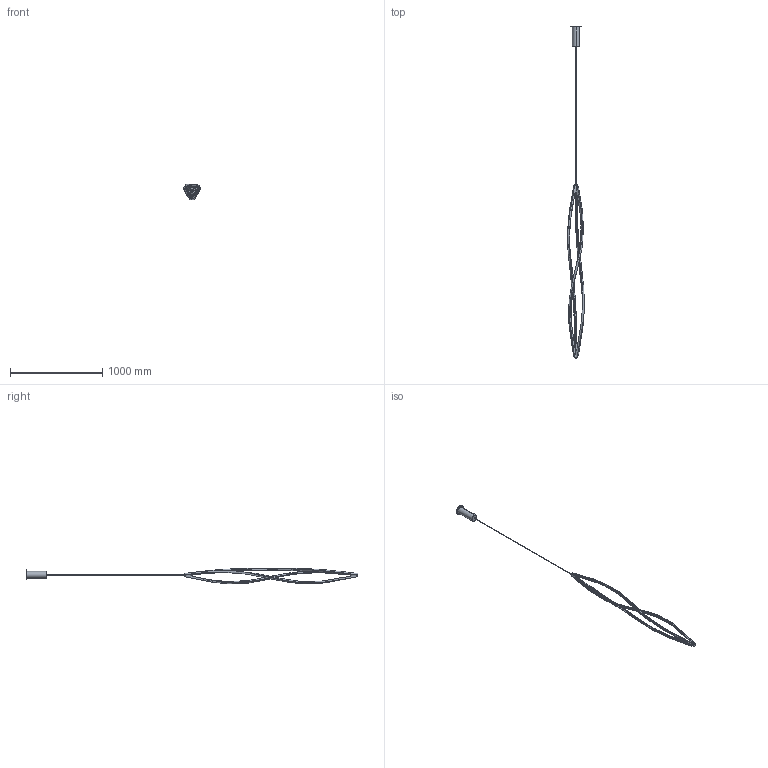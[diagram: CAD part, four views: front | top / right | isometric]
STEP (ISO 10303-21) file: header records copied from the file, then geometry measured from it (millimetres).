
FILE_DESCRIPTION (( 'STEP AP203' ), '1' );
FILE_NAME ('ITW Pendant V cover plate.STEP', '2017-07-28T09:42:33', ( 'user' ), ( '' ), 'SwSTEP 2.0', 'SolidWorks 2016', '' );
FILE_SCHEMA (( 'CONFIG_CONTROL_DESIGN' ));
Length unit declared in the file: millimetre
Products named in the file (14): 010ITW700300; Bloccacavo Steab 5016_3_15_20; 010GIO700260_Rosone Eu_Us; 051ITW800100; passacavo STEAB 6222; 051ITW701600_Testata ITW Pend V ETL_Sospesa superiore; 524LCY000001_Crossbar; 010TRU700400; 524LJU008000_Round cover plate; 051ITW701600_Testata ITW Pend V ETL_TESTA; Assieme rosone ITW x sito USA_TERRA; cavo; ITW Pendant V cover plate; 051ITW700400_sospesa orizzontale 
Assembly tree (21 placements, depth 3):
  ITW Pendant V cover plate
    051ITW800100  x3
    051ITW701600_Testata ITW Pend V ETL_Sospesa superiore
    010TRU700400  x3
    051ITW701600_Testata ITW Pend V ETL_TESTA
    cavo
    051ITW700400_sospesa orizzontale   x2
    010ITW700300  x4
    Bloccacavo Steab 5016_3_15_20
    Assieme rosone ITW x sito USA_TERRA
      010GIO700260_Rosone Eu_Us
      passacavo STEAB 6222
      524LCY000001_Crossbar
      524LJU008000_Round cover plate
Bounding box: 180.47 x 3590.73 x 168.4 mm (x, y, z)
Volume: 1044262.1 mm3; surface area: 1130164.3 mm2
Topology: 20 solids, 20 shells, 1230 faces, 3346 edges, 2162 vertices
Faces by surface type: plane 664, bspline 260, cylinder 260, cone 34, torus 12
Entity records: 42682 total; most frequent: CARTESIAN_POINT 18558, ORIENTED_EDGE 5158, DIRECTION 3960, EDGE_CURVE 2579, VECTOR 1664, VERTEX_POINT 1664, LINE 1664, AXIS2_PLACEMENT_3D 1148
